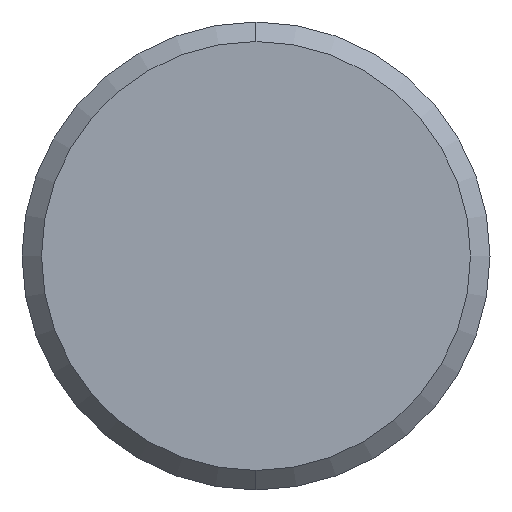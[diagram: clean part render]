
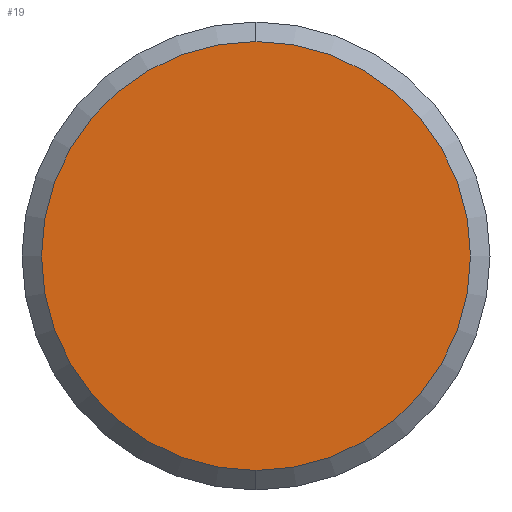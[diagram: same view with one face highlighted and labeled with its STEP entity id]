
A CAD part, left-side view. The second image highlights one B-rep face of the part: STEP entity #19.
In plain terms, the highlighted planar face has unit normal (-1, 0, 0).
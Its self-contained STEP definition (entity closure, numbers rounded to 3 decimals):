
#8 = EDGE_CURVE ( 'NONE', #101, #96, #291, .T. ) ;
#16 = ORIENTED_EDGE ( 'NONE', *, *, #114, .T. ) ;
#19 = ADVANCED_FACE ( 'NONE', ( #290 ), #138, .F. ) ;
#24 = ORIENTED_EDGE ( 'NONE', *, *, #8, .T. ) ;
#27 = EDGE_LOOP ( 'NONE', ( #24, #16 ) ) ;
#96 = VERTEX_POINT ( 'NONE', #351 ) ;
#101 = VERTEX_POINT ( 'NONE', #391 ) ;
#114 = EDGE_CURVE ( 'NONE', #96, #101, #384, .T. ) ;
#138 = PLANE ( 'NONE',  #229 ) ;
#140 = DIRECTION ( 'NONE',  ( 0., 0., -1. ) ) ;
#207 = CARTESIAN_POINT ( 'NONE',  ( -75., 0., 0. ) ) ;
#229 = AXIS2_PLACEMENT_3D ( 'NONE', #207, #289, #140 ) ;
#234 = CARTESIAN_POINT ( 'NONE',  ( -75., 0., 0. ) ) ;
#285 = DIRECTION ( 'NONE',  ( 0., 0., -1. ) ) ;
#286 = DIRECTION ( 'NONE',  ( -1., 0., 0. ) ) ;
#287 = AXIS2_PLACEMENT_3D ( 'NONE', #234, #286, #285 ) ;
#289 = DIRECTION ( 'NONE',  ( 1., 0., 0. ) ) ;
#290 = FACE_OUTER_BOUND ( 'NONE', #27, .T. ) ;
#291 = CIRCLE ( 'NONE', #287, 5.5 ) ;
#351 = CARTESIAN_POINT ( 'NONE',  ( -75., 0., 5.5 ) ) ;
#384 = CIRCLE ( 'NONE', #498, 5.5 ) ;
#391 = CARTESIAN_POINT ( 'NONE',  ( -75., 0., -5.5 ) ) ;
#496 = CARTESIAN_POINT ( 'NONE',  ( -75., 0., 0. ) ) ;
#498 = AXIS2_PLACEMENT_3D ( 'NONE', #496, #517, #513 ) ;
#513 = DIRECTION ( 'NONE',  ( 0., 0., -1. ) ) ;
#517 = DIRECTION ( 'NONE',  ( -1., 0., 0. ) ) ;
